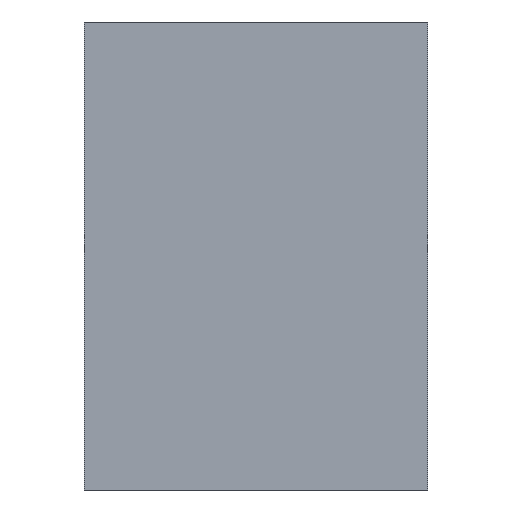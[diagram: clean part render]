
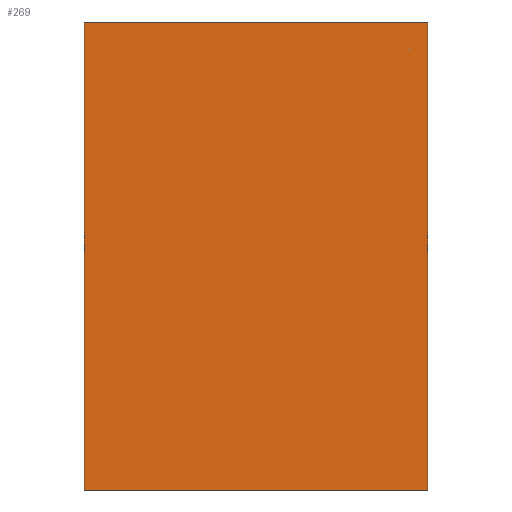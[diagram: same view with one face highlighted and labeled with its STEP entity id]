
A CAD part, left-side view. The second image highlights one B-rep face of the part: STEP entity #269.
In plain terms, the highlighted planar face has unit normal (-1, 0, 0).
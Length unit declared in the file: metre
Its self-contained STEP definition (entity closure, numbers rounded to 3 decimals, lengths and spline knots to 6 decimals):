
#72=ORIENTED_EDGE('',*,*,#109,.T.);
#73=ORIENTED_EDGE('',*,*,#116,.F.);
#74=ORIENTED_EDGE('',*,*,#114,.F.);
#75=ORIENTED_EDGE('',*,*,#118,.T.);
#109=EDGE_CURVE('',#139,#138,#169,.T.);
#114=EDGE_CURVE('',#142,#143,#174,.T.);
#116=EDGE_CURVE('',#143,#138,#176,.T.);
#118=EDGE_CURVE('',#142,#139,#178,.T.);
#138=VERTEX_POINT('',#418);
#139=VERTEX_POINT('',#420);
#142=VERTEX_POINT('',#428);
#143=VERTEX_POINT('',#430);
#169=LINE('',#419,#205);
#174=LINE('',#429,#210);
#176=LINE('',#433,#212);
#178=LINE('',#436,#214);
#205=VECTOR('',#344,1.);
#210=VECTOR('',#351,1.);
#212=VECTOR('',#355,1.);
#214=VECTOR('',#359,1.);
#227=EDGE_LOOP('',(#72,#73,#74,#75));
#241=FACE_BOUND('',#227,.T.);
#255=PLANE('',#296);
#269=ADVANCED_FACE('',(#241),#255,.F.);
#296=AXIS2_PLACEMENT_3D('',#435,#357,#358);
#344=DIRECTION('',(0.,-1.,0.));
#351=DIRECTION('',(0.,-1.,0.));
#355=DIRECTION('',(0.,0.,-1.));
#357=DIRECTION('',(1.,0.,0.));
#358=DIRECTION('',(0.,0.,-1.));
#359=DIRECTION('',(0.,0.,-1.));
#418=CARTESIAN_POINT('',(-0.0085,0.,0.018));
#419=CARTESIAN_POINT('',(-0.0085,0.,0.018));
#420=CARTESIAN_POINT('',(-0.0085,0.0061,0.018));
#428=CARTESIAN_POINT('',(-0.0085,0.0061,0.0263));
#429=CARTESIAN_POINT('',(-0.0085,0.,0.0263));
#430=CARTESIAN_POINT('',(-0.0085,0.,0.0263));
#433=CARTESIAN_POINT('',(-0.0085,0.,0.0263));
#435=CARTESIAN_POINT('',(-0.0085,0.,0.0263));
#436=CARTESIAN_POINT('',(-0.0085,0.0061,0.0263));
